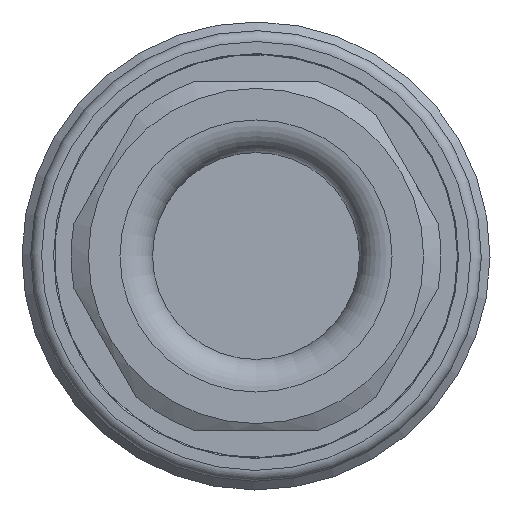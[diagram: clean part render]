
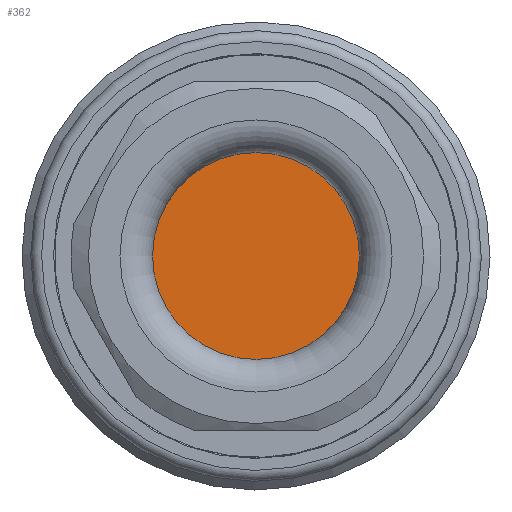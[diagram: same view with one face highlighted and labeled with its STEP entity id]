
A CAD part, left-side view. The second image highlights one B-rep face of the part: STEP entity #362.
In plain terms, the highlighted planar face has unit normal (-1, 0, 0).
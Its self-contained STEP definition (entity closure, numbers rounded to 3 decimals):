
#84=PLANE('',#2089);
#362=ADVANCED_FACE('',(#502),#84,.T.);
#502=FACE_OUTER_BOUND('',#621,.T.);
#621=EDGE_LOOP('',(#1039));
#792=CIRCLE('',#2087,4.75);
#1039=ORIENTED_EDGE('',*,*,#1637,.T.);
#1427=VERTEX_POINT('',#5913);
#1637=EDGE_CURVE('',#1427,#1427,#792,.T.);
#2087=AXIS2_PLACEMENT_3D('',#5912,#2419,#2420);
#2089=AXIS2_PLACEMENT_3D('',#5915,#2423,#2424);
#2419=DIRECTION('',(-1.,0.,0.));
#2420=DIRECTION('',(0.,-1.,0.));
#2423=DIRECTION('',(-1.,0.,0.));
#2424=DIRECTION('',(0.,0.,1.));
#5912=CARTESIAN_POINT('',(-49.4,0.,0.));
#5913=CARTESIAN_POINT('',(-49.4,-4.75,0.));
#5915=CARTESIAN_POINT('',(-49.4,0.,0.));
